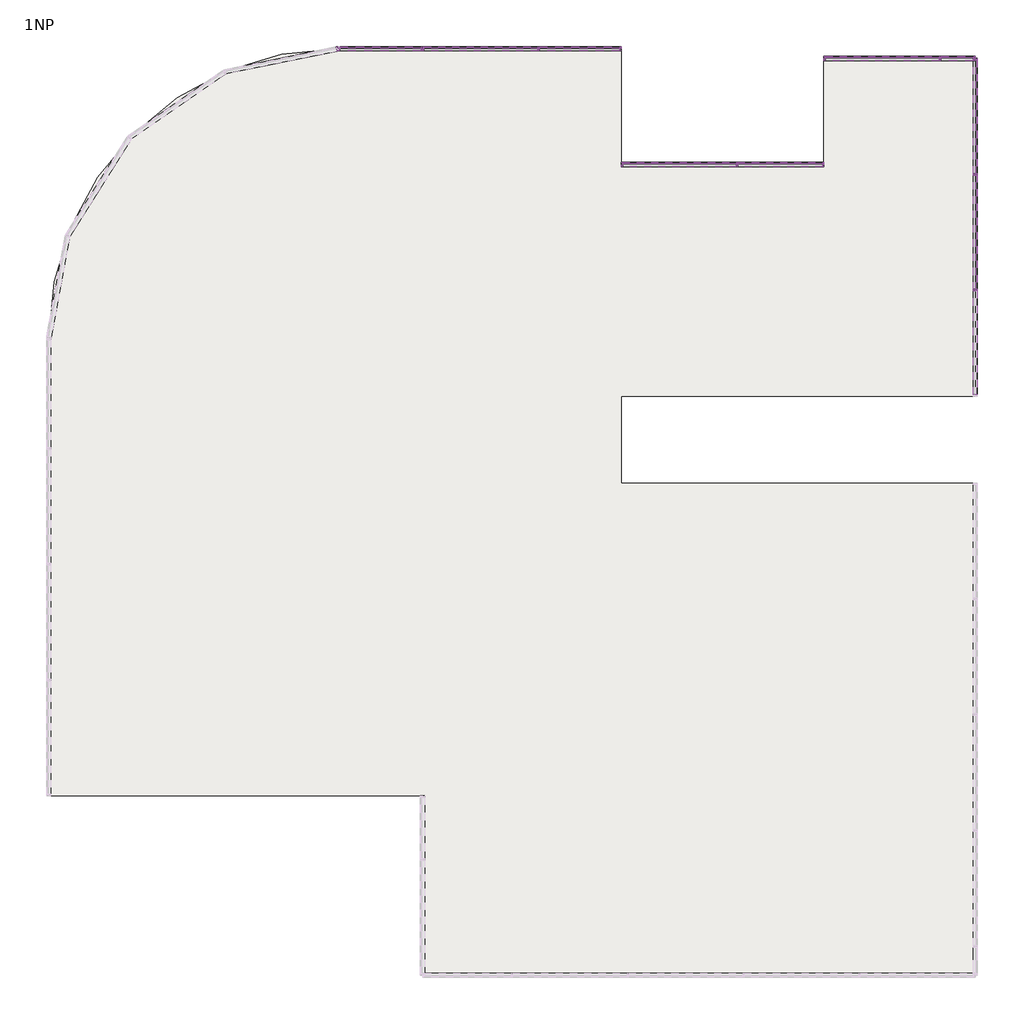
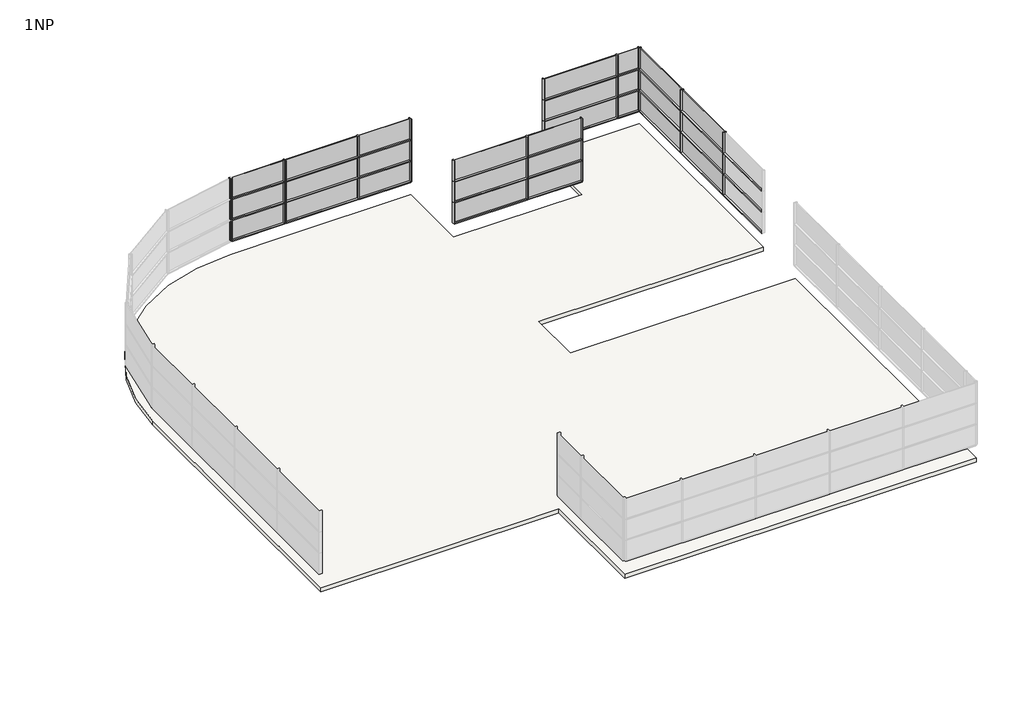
# One storey, part 3 of 3: 72 members, 27 plates, 1 slab.
"""IFC4 building model written with IfcOpenShell, lengths in millimetres."""

from ifc_helpers import new_model, si_unit, point, frame, frame_2d, origin, place, context, project, spatial, polyline, circle_curve, trimmed, segment, composite_curve, outline, extrude, transform, mapped, element, save
from components import rectangular_mullion_50_x_150mm_d99dc9be, rectangular_mullion_50_x_150mm_6588f46c, rectangular_mullion_50_x_150mm_3fe1b35e, rectangular_mullion_50_x_150mm_a037c29c, rectangular_mullion_50_x_150mm_c2546fd4, rectangular_mullion_50_x_150mm_8b4cb4b7, rectangular_mullion_50_x_150mm_185cfd49, rectangular_mullion_50_x_150mm_2fe63767, rectangular_mullion_50_x_150mm_6d604593, system_panel_glazed_8e9402eb, system_panel_glazed_89ac83a7, system_panel_glazed_e890f31e, system_panel_glazed_e3e91f99, system_panel_glazed_39d17f19, system_panel_glazed_18d93cd4

model = new_model("IFC4")

# Units and contexts
model_context = context("Model", 3, world=origin())
ifc_project = project(units=[si_unit("LENGTHUNIT", "METRE", prefix="MILLI")], contexts=[model_context])

# Site, building, storey
site = spatial("IfcSite", under=ifc_project)
building = spatial("IfcBuilding", under=site)
storey = spatial("IfcBuildingStorey", under=building, Name="1NP", Elevation=4000.0)

# Members
placement = place(None, origin())
rectangular_mullion_50_x_150mm_shape = rectangular_mullion_50_x_150mm_d99dc9be(model_context)
element("IfcMember", 1, ObjectType="Rectangular Mullion : 50 x 150mm", at=placement, inside=storey, context=model_context, shape_type="MappedRepresentation", body=[
    mapped(rectangular_mullion_50_x_150mm_shape, transform((13503.2660975, 39.3555415, 8400.0), x_axis=(0.0, -1.0, 0.0), y_axis=(1.0, 0.0, 0.0), z_axis=(0.0, 0.0, 1.0))),
])
element("IfcMember", 2, ObjectType="Rectangular Mullion : 50 x 150mm", at=placement, inside=storey, context=model_context, shape_type="MappedRepresentation", body=[
    mapped(rectangular_mullion_50_x_150mm_shape, transform((13503.2660975, 39.3555415, 7200.0), x_axis=(0.0, -1.0, 0.0), y_axis=(1.0, 0.0, 0.0), z_axis=(0.0, 0.0, 1.0))),
])
element("IfcMember", 3, ObjectType="Rectangular Mullion : 50 x 150mm", at=placement, inside=storey, context=model_context, shape_type="MappedRepresentation", body=[
    mapped(rectangular_mullion_50_x_150mm_shape, transform((13503.2660975, 39.3555415, 6000.0), x_axis=(0.0, -1.0, 0.0), y_axis=(1.0, 0.0, 0.0), z_axis=(0.0, 0.0, 1.0))),
])
element("IfcMember", 4, ObjectType="Rectangular Mullion : 50 x 150mm", at=placement, inside=storey, context=model_context, shape_type="MappedRepresentation", body=[
    mapped(rectangular_mullion_50_x_150mm_shape, transform((13503.2660975, 4039.3555415, 8400.0), x_axis=(0.0, -1.0, 0.0), y_axis=(1.0, 0.0, 0.0), z_axis=(0.0, 0.0, 1.0))),
])
element("IfcMember", 5, ObjectType="Rectangular Mullion : 50 x 150mm", at=placement, inside=storey, context=model_context, shape_type="MappedRepresentation", body=[
    mapped(rectangular_mullion_50_x_150mm_shape, transform((13503.2660975, 4039.3555415, 7200.0), x_axis=(0.0, -1.0, 0.0), y_axis=(1.0, 0.0, 0.0), z_axis=(0.0, 0.0, 1.0))),
])
element("IfcMember", 6, ObjectType="Rectangular Mullion : 50 x 150mm", at=placement, inside=storey, context=model_context, shape_type="MappedRepresentation", body=[
    mapped(rectangular_mullion_50_x_150mm_shape, transform((13503.2660975, 4039.3555415, 6000.0), x_axis=(0.0, -1.0, 0.0), y_axis=(1.0, 0.0, 0.0), z_axis=(0.0, 0.0, 1.0))),
])
element("IfcMember", 7, ObjectType="Rectangular Mullion : 50 x 150mm", at=placement, inside=storey, context=model_context, shape_type="MappedRepresentation", body=[
    mapped(rectangular_mullion_50_x_150mm_shape, transform((-1587.173406, 8375.9839566, 6000.0), x_axis=(1.0, 0.0, 0.0), y_axis=(0.0, 1.0, 0.0), z_axis=(0.0, 0.0, 1.0))),
])
element("IfcMember", 8, ObjectType="Rectangular Mullion : 50 x 150mm", at=placement, inside=storey, context=model_context, shape_type="MappedRepresentation", body=[
    mapped(rectangular_mullion_50_x_150mm_shape, transform((-1587.173406, 8375.9839566, 7200.0), x_axis=(1.0, 0.0, 0.0), y_axis=(0.0, 1.0, 0.0), z_axis=(0.0, 0.0, 1.0))),
])
element("IfcMember", 9, ObjectType="Rectangular Mullion : 50 x 150mm", at=placement, inside=storey, context=model_context, shape_type="MappedRepresentation", body=[
    mapped(rectangular_mullion_50_x_150mm_shape, transform((-1587.173406, 8375.9839566, 8400.0), x_axis=(1.0, 0.0, 0.0), y_axis=(0.0, 1.0, 0.0), z_axis=(0.0, 0.0, 1.0))),
])
element("IfcMember", 10, ObjectType="Rectangular Mullion : 50 x 150mm", at=placement, inside=storey, context=model_context, shape_type="MappedRepresentation", body=[
    mapped(rectangular_mullion_50_x_150mm_shape, transform((5278.419219, 4375.9839566, 6000.0), x_axis=(1.0, 0.0, 0.0), y_axis=(0.0, 1.0, 0.0), z_axis=(0.0, 0.0, 1.0))),
])
element("IfcMember", 11, ObjectType="Rectangular Mullion : 50 x 150mm", at=placement, inside=storey, context=model_context, shape_type="MappedRepresentation", body=[
    mapped(rectangular_mullion_50_x_150mm_shape, transform((5278.419219, 4375.9839566, 7200.0), x_axis=(1.0, 0.0, 0.0), y_axis=(0.0, 1.0, 0.0), z_axis=(0.0, 0.0, 1.0))),
])
element("IfcMember", 12, ObjectType="Rectangular Mullion : 50 x 150mm", at=placement, inside=storey, context=model_context, shape_type="MappedRepresentation", body=[
    mapped(rectangular_mullion_50_x_150mm_shape, transform((5278.419219, 4375.9839566, 8400.0), x_axis=(1.0, 0.0, 0.0), y_axis=(0.0, 1.0, 0.0), z_axis=(0.0, 0.0, 1.0))),
])
element("IfcMember", 13, ObjectType="Rectangular Mullion : 50 x 150mm", at=placement, inside=storey, context=model_context, shape_type="MappedRepresentation", body=[
    mapped(rectangular_mullion_50_x_150mm_shape, transform((12278.419219, 8039.3555415, 6000.0), x_axis=(1.0, 0.0, 0.0), y_axis=(0.0, 1.0, 0.0), z_axis=(0.0, 0.0, 1.0))),
])
element("IfcMember", 14, ObjectType="Rectangular Mullion : 50 x 150mm", at=placement, inside=storey, context=model_context, shape_type="MappedRepresentation", body=[
    mapped(rectangular_mullion_50_x_150mm_shape, transform((12278.419219, 8039.3555415, 7200.0), x_axis=(1.0, 0.0, 0.0), y_axis=(0.0, 1.0, 0.0), z_axis=(0.0, 0.0, 1.0))),
])
element("IfcMember", 15, ObjectType="Rectangular Mullion : 50 x 150mm", at=placement, inside=storey, context=model_context, shape_type="MappedRepresentation", body=[
    mapped(rectangular_mullion_50_x_150mm_shape, transform((12278.419219, 8039.3555415, 8400.0), x_axis=(1.0, 0.0, 0.0), y_axis=(0.0, 1.0, 0.0), z_axis=(0.0, 0.0, 1.0))),
])
rectangular_mullion_50_x_150mm_2_shape = rectangular_mullion_50_x_150mm_6588f46c(model_context)
element("IfcMember", 16, ObjectType="Rectangular Mullion : 50 x 150mm", at=placement, inside=storey, context=model_context, shape_type="MappedRepresentation", body=[
    mapped(rectangular_mullion_50_x_150mm_2_shape, transform((1278.419219, 8375.9839566, 6000.0), x_axis=(1.0, 0.0, 0.0), y_axis=(0.0, 1.0, 0.0), z_axis=(0.0, 0.0, 1.0))),
])
element("IfcMember", 17, ObjectType="Rectangular Mullion : 50 x 150mm", at=placement, inside=storey, context=model_context, shape_type="MappedRepresentation", body=[
    mapped(rectangular_mullion_50_x_150mm_2_shape, transform((1278.419219, 8375.9839566, 7200.0), x_axis=(1.0, 0.0, 0.0), y_axis=(0.0, 1.0, 0.0), z_axis=(0.0, 0.0, 1.0))),
])
element("IfcMember", 18, ObjectType="Rectangular Mullion : 50 x 150mm", at=placement, inside=storey, context=model_context, shape_type="MappedRepresentation", body=[
    mapped(rectangular_mullion_50_x_150mm_2_shape, transform((1278.419219, 8375.9839566, 8400.0), x_axis=(1.0, 0.0, 0.0), y_axis=(0.0, 1.0, 0.0), z_axis=(0.0, 0.0, 1.0))),
])
element("IfcMember", 19, ObjectType="Rectangular Mullion : 50 x 150mm", at=placement, inside=storey, context=model_context, shape_type="MappedRepresentation", body=[
    mapped(rectangular_mullion_50_x_150mm_2_shape, transform((8278.419219, 4375.9839566, 6000.0), x_axis=(1.0, 0.0, 0.0), y_axis=(0.0, 1.0, 0.0), z_axis=(0.0, 0.0, 1.0))),
])
element("IfcMember", 20, ObjectType="Rectangular Mullion : 50 x 150mm", at=placement, inside=storey, context=model_context, shape_type="MappedRepresentation", body=[
    mapped(rectangular_mullion_50_x_150mm_2_shape, transform((8278.419219, 4375.9839566, 7200.0), x_axis=(1.0, 0.0, 0.0), y_axis=(0.0, 1.0, 0.0), z_axis=(0.0, 0.0, 1.0))),
])
element("IfcMember", 21, ObjectType="Rectangular Mullion : 50 x 150mm", at=placement, inside=storey, context=model_context, shape_type="MappedRepresentation", body=[
    mapped(rectangular_mullion_50_x_150mm_2_shape, transform((8278.419219, 4375.9839566, 8400.0), x_axis=(1.0, 0.0, 0.0), y_axis=(0.0, 1.0, 0.0), z_axis=(0.0, 0.0, 1.0))),
])
element("IfcMember", 22, ObjectType="Rectangular Mullion : 50 x 150mm", at=placement, inside=storey, context=model_context, shape_type="MappedRepresentation", body=[
    mapped(rectangular_mullion_50_x_150mm_2_shape, transform((13503.2660975, 8039.3555415, 6000.0), x_axis=(1.0, 0.0, 0.0), y_axis=(0.0, 1.0, 0.0), z_axis=(0.0, 0.0, 1.0))),
])
element("IfcMember", 23, ObjectType="Rectangular Mullion : 50 x 150mm", at=placement, inside=storey, context=model_context, shape_type="MappedRepresentation", body=[
    mapped(rectangular_mullion_50_x_150mm_2_shape, transform((13503.2660975, 8039.3555415, 7200.0), x_axis=(1.0, 0.0, 0.0), y_axis=(0.0, 1.0, 0.0), z_axis=(0.0, 0.0, 1.0))),
])
element("IfcMember", 24, ObjectType="Rectangular Mullion : 50 x 150mm", at=placement, inside=storey, context=model_context, shape_type="MappedRepresentation", body=[
    mapped(rectangular_mullion_50_x_150mm_2_shape, transform((13503.2660975, 8039.3555415, 8400.0), x_axis=(1.0, 0.0, 0.0), y_axis=(0.0, 1.0, 0.0), z_axis=(0.0, 0.0, 1.0))),
])
element("IfcMember", 25, ObjectType="Rectangular Mullion : 50 x 150mm", at=placement, inside=storey, context=model_context, shape_type="MappedRepresentation", body=[
    mapped(rectangular_mullion_50_x_150mm_2_shape, transform((-5587.173406, 8375.9839566, 6000.0), x_axis=(1.0, 0.0, 0.0), y_axis=(0.0, 1.0, 0.0), z_axis=(0.0, 0.0, 1.0))),
])
element("IfcMember", 26, ObjectType="Rectangular Mullion : 50 x 150mm", at=placement, inside=storey, context=model_context, shape_type="MappedRepresentation", body=[
    mapped(rectangular_mullion_50_x_150mm_2_shape, transform((-5587.173406, 8375.9839566, 7200.0), x_axis=(1.0, 0.0, 0.0), y_axis=(0.0, 1.0, 0.0), z_axis=(0.0, 0.0, 1.0))),
])
element("IfcMember", 27, ObjectType="Rectangular Mullion : 50 x 150mm", at=placement, inside=storey, context=model_context, shape_type="MappedRepresentation", body=[
    mapped(rectangular_mullion_50_x_150mm_2_shape, transform((-5587.173406, 8375.9839566, 8400.0), x_axis=(1.0, 0.0, 0.0), y_axis=(0.0, 1.0, 0.0), z_axis=(0.0, 0.0, 1.0))),
])
element("IfcMember", 28, ObjectType="Rectangular Mullion : 50 x 150mm", at=placement, inside=storey, context=model_context, shape_type="MappedRepresentation", body=[
    mapped(rectangular_mullion_50_x_150mm_2_shape, transform((-8496.7339025, 8375.9839566, 6000.0), x_axis=(0.9797958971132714, 0.1999999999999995, 0.0), y_axis=(-0.1999999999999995, 0.9797958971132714, 0.0), z_axis=(0.0, 0.0, 1.0))),
])
element("IfcMember", 29, ObjectType="Rectangular Mullion : 50 x 150mm", at=placement, inside=storey, context=model_context, shape_type="MappedRepresentation", body=[
    mapped(rectangular_mullion_50_x_150mm_2_shape, transform((-8496.7339025, 8375.9839566, 7200.0), x_axis=(0.9797958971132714, 0.1999999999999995, 0.0), y_axis=(-0.1999999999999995, 0.9797958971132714, 0.0), z_axis=(0.0, 0.0, 1.0))),
])
element("IfcMember", 30, ObjectType="Rectangular Mullion : 50 x 150mm", at=placement, inside=storey, context=model_context, shape_type="MappedRepresentation", body=[
    mapped(rectangular_mullion_50_x_150mm_2_shape, transform((-8496.7339025, 8375.9839566, 8400.0), x_axis=(0.9797958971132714, 0.1999999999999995, 0.0), y_axis=(-0.1999999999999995, 0.9797958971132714, 0.0), z_axis=(0.0, 0.0, 1.0))),
])
rectangular_mullion_50_x_150mm_3_shape = rectangular_mullion_50_x_150mm_3fe1b35e(model_context)
element("IfcMember", 31, ObjectType="Rectangular Mullion : 50 x 150mm", at=placement, inside=storey, context=model_context, shape_type="MappedRepresentation", body=[
    mapped(rectangular_mullion_50_x_150mm_3_shape, transform((13503.2660975, 14.3555415, 6000.0), x_axis=(0.0, 0.0, 1.0), y_axis=(1.0, 0.0, 0.0), z_axis=(0.0, 1.0, 0.0))),
])
element("IfcMember", 32, ObjectType="Rectangular Mullion : 50 x 150mm", at=placement, inside=storey, context=model_context, shape_type="MappedRepresentation", body=[
    mapped(rectangular_mullion_50_x_150mm_3_shape, transform((13503.2660975, 14.3555415, 4800.0), x_axis=(0.0, 0.0, 1.0), y_axis=(1.0, 0.0, 0.0), z_axis=(0.0, 1.0, 0.0))),
])
element("IfcMember", 33, ObjectType="Rectangular Mullion : 50 x 150mm", at=placement, inside=storey, context=model_context, shape_type="MappedRepresentation", body=[
    mapped(rectangular_mullion_50_x_150mm_3_shape, transform((13503.2660975, 14.3555415, 7200.0), x_axis=(0.0, 0.0, 1.0), y_axis=(1.0, 0.0, 0.0), z_axis=(0.0, 1.0, 0.0))),
])
rectangular_mullion_50_x_150mm_4_shape = rectangular_mullion_50_x_150mm_a037c29c(model_context)
element("IfcMember", 34, ObjectType="Rectangular Mullion : 50 x 150mm", at=placement, inside=storey, context=model_context, shape_type="MappedRepresentation", body=[
    mapped(rectangular_mullion_50_x_150mm_4_shape, transform((13503.2660975, 4014.3555415, 6000.0), x_axis=(0.0, 0.0, 1.0), y_axis=(1.0, 0.0, 0.0), z_axis=(0.0, 1.0, 0.0))),
])
element("IfcMember", 35, ObjectType="Rectangular Mullion : 50 x 150mm", at=placement, inside=storey, context=model_context, shape_type="MappedRepresentation", body=[
    mapped(rectangular_mullion_50_x_150mm_4_shape, transform((13503.2660975, 4014.3555415, 4800.0), x_axis=(0.0, 0.0, 1.0), y_axis=(1.0, 0.0, 0.0), z_axis=(0.0, 1.0, 0.0))),
])
element("IfcMember", 36, ObjectType="Rectangular Mullion : 50 x 150mm", at=placement, inside=storey, context=model_context, shape_type="MappedRepresentation", body=[
    mapped(rectangular_mullion_50_x_150mm_4_shape, transform((13503.2660975, 4014.3555415, 7200.0), x_axis=(0.0, 0.0, 1.0), y_axis=(1.0, 0.0, 0.0), z_axis=(0.0, 1.0, 0.0))),
])
rectangular_mullion_50_x_150mm_5_shape = rectangular_mullion_50_x_150mm_c2546fd4(model_context)
element("IfcMember", 37, ObjectType="Rectangular Mullion : 50 x 150mm", at=placement, inside=storey, context=model_context, shape_type="MappedRepresentation", body=[
    mapped(rectangular_mullion_50_x_150mm_5_shape, transform((13503.2660975, 7989.3555415, 6000.0), x_axis=(0.0, 0.0, 1.0), y_axis=(1.0, 0.0, 0.0), z_axis=(0.0, 1.0, 0.0))),
])
element("IfcMember", 38, ObjectType="Rectangular Mullion : 50 x 150mm", at=placement, inside=storey, context=model_context, shape_type="MappedRepresentation", body=[
    mapped(rectangular_mullion_50_x_150mm_5_shape, transform((13503.2660975, 7989.3555415, 4800.0), x_axis=(0.0, 0.0, 1.0), y_axis=(1.0, 0.0, 0.0), z_axis=(0.0, 1.0, 0.0))),
])
element("IfcMember", 39, ObjectType="Rectangular Mullion : 50 x 150mm", at=placement, inside=storey, context=model_context, shape_type="MappedRepresentation", body=[
    mapped(rectangular_mullion_50_x_150mm_5_shape, transform((13503.2660975, 7989.3555415, 7200.0), x_axis=(0.0, 0.0, 1.0), y_axis=(1.0, 0.0, 0.0), z_axis=(0.0, 1.0, 0.0))),
])
element("IfcMember", 40, ObjectType="Rectangular Mullion : 50 x 150mm", at=placement, inside=storey, context=model_context, shape_type="MappedRepresentation", body=[
    mapped(rectangular_mullion_50_x_150mm_5_shape, transform((-5537.173406, 8375.9839566, 6000.0), x_axis=(0.0, 0.0, 1.0), y_axis=(0.0, 1.0, 0.0), z_axis=(-1.0, 0.0, 0.0))),
])
element("IfcMember", 41, ObjectType="Rectangular Mullion : 50 x 150mm", at=placement, inside=storey, context=model_context, shape_type="MappedRepresentation", body=[
    mapped(rectangular_mullion_50_x_150mm_5_shape, transform((-5537.173406, 8375.9839566, 7200.0), x_axis=(0.0, 0.0, 1.0), y_axis=(0.0, 1.0, 0.0), z_axis=(-1.0, 0.0, 0.0))),
])
element("IfcMember", 42, ObjectType="Rectangular Mullion : 50 x 150mm", at=placement, inside=storey, context=model_context, shape_type="MappedRepresentation", body=[
    mapped(rectangular_mullion_50_x_150mm_5_shape, transform((-5537.173406, 8375.9839566, 4800.0), x_axis=(0.0, 0.0, 1.0), y_axis=(0.0, 1.0, 0.0), z_axis=(-1.0, 0.0, 0.0))),
])
element("IfcMember", 43, ObjectType="Rectangular Mullion : 50 x 150mm", at=placement, inside=storey, context=model_context, shape_type="MappedRepresentation", body=[
    mapped(rectangular_mullion_50_x_150mm_5_shape, transform((1328.419219, 4375.9839566, 4800.0), x_axis=(0.0, 0.0, 1.0), y_axis=(0.0, 1.0, 0.0), z_axis=(-1.0, 0.0, 0.0))),
])
element("IfcMember", 44, ObjectType="Rectangular Mullion : 50 x 150mm", at=placement, inside=storey, context=model_context, shape_type="MappedRepresentation", body=[
    mapped(rectangular_mullion_50_x_150mm_5_shape, transform((1328.419219, 4375.9839566, 6000.0), x_axis=(0.0, 0.0, 1.0), y_axis=(0.0, 1.0, 0.0), z_axis=(-1.0, 0.0, 0.0))),
])
element("IfcMember", 45, ObjectType="Rectangular Mullion : 50 x 150mm", at=placement, inside=storey, context=model_context, shape_type="MappedRepresentation", body=[
    mapped(rectangular_mullion_50_x_150mm_5_shape, transform((1328.419219, 4375.9839566, 7200.0), x_axis=(0.0, 0.0, 1.0), y_axis=(0.0, 1.0, 0.0), z_axis=(-1.0, 0.0, 0.0))),
])
element("IfcMember", 46, ObjectType="Rectangular Mullion : 50 x 150mm", at=placement, inside=storey, context=model_context, shape_type="MappedRepresentation", body=[
    mapped(rectangular_mullion_50_x_150mm_5_shape, transform((8328.419219, 8039.3555415, 4800.0), x_axis=(0.0, 0.0, 1.0), y_axis=(0.0, 1.0, 0.0), z_axis=(-1.0, 0.0, 0.0))),
])
element("IfcMember", 47, ObjectType="Rectangular Mullion : 50 x 150mm", at=placement, inside=storey, context=model_context, shape_type="MappedRepresentation", body=[
    mapped(rectangular_mullion_50_x_150mm_5_shape, transform((8328.419219, 8039.3555415, 6000.0), x_axis=(0.0, 0.0, 1.0), y_axis=(0.0, 1.0, 0.0), z_axis=(-1.0, 0.0, 0.0))),
])
element("IfcMember", 48, ObjectType="Rectangular Mullion : 50 x 150mm", at=placement, inside=storey, context=model_context, shape_type="MappedRepresentation", body=[
    mapped(rectangular_mullion_50_x_150mm_5_shape, transform((8328.419219, 8039.3555415, 7200.0), x_axis=(0.0, 0.0, 1.0), y_axis=(0.0, 1.0, 0.0), z_axis=(-1.0, 0.0, 0.0))),
])
element("IfcMember", 49, ObjectType="Rectangular Mullion : 50 x 150mm", at=placement, inside=storey, context=model_context, shape_type="MappedRepresentation", body=[
    mapped(rectangular_mullion_50_x_150mm_2_shape, transform((13503.2660975, 8039.3555415, 7200.0), x_axis=(0.0, 1.0, 0.0), y_axis=(1.0, 0.0, 0.0), z_axis=(0.0, 0.0, -1.0))),
])
element("IfcMember", 50, ObjectType="Rectangular Mullion : 50 x 150mm", at=placement, inside=storey, context=model_context, shape_type="MappedRepresentation", body=[
    mapped(rectangular_mullion_50_x_150mm_2_shape, transform((13503.2660975, 8039.3555415, 6000.0), x_axis=(0.0, 1.0, 0.0), y_axis=(1.0, 0.0, 0.0), z_axis=(0.0, 0.0, -1.0))),
])
element("IfcMember", 51, ObjectType="Rectangular Mullion : 50 x 150mm", at=placement, inside=storey, context=model_context, shape_type="MappedRepresentation", body=[
    mapped(rectangular_mullion_50_x_150mm_2_shape, transform((13503.2660975, 8039.3555415, 4800.0), x_axis=(0.0, 1.0, 0.0), y_axis=(1.0, 0.0, 0.0), z_axis=(0.0, 0.0, -1.0))),
])
element("IfcMember", 52, ObjectType="Rectangular Mullion : 50 x 150mm", at=placement, inside=storey, context=model_context, shape_type="MappedRepresentation", body=[
    mapped(rectangular_mullion_50_x_150mm_2_shape, transform((-5587.173406, 8375.9839566, 4800.0), x_axis=(-1.0, 0.0, 0.0), y_axis=(0.0, 1.0, 0.0), z_axis=(0.0, 0.0, -1.0))),
])
element("IfcMember", 53, ObjectType="Rectangular Mullion : 50 x 150mm", at=placement, inside=storey, context=model_context, shape_type="MappedRepresentation", body=[
    mapped(rectangular_mullion_50_x_150mm_2_shape, transform((-5587.173406, 8375.9839566, 6000.0), x_axis=(-1.0, 0.0, 0.0), y_axis=(0.0, 1.0, 0.0), z_axis=(0.0, 0.0, -1.0))),
])
element("IfcMember", 54, ObjectType="Rectangular Mullion : 50 x 150mm", at=placement, inside=storey, context=model_context, shape_type="MappedRepresentation", body=[
    mapped(rectangular_mullion_50_x_150mm_2_shape, transform((-5587.173406, 8375.9839566, 7200.0), x_axis=(-1.0, 0.0, 0.0), y_axis=(0.0, 1.0, 0.0), z_axis=(0.0, 0.0, -1.0))),
])
element("IfcMember", 55, ObjectType="Rectangular Mullion : 50 x 150mm", at=placement, inside=storey, context=model_context, shape_type="MappedRepresentation", body=[
    mapped(rectangular_mullion_50_x_150mm_2_shape, transform((1278.419219, 4375.9839566, 4800.0), x_axis=(-1.0, 0.0, 0.0), y_axis=(0.0, 1.0, 0.0), z_axis=(0.0, 0.0, -1.0))),
])
element("IfcMember", 56, ObjectType="Rectangular Mullion : 50 x 150mm", at=placement, inside=storey, context=model_context, shape_type="MappedRepresentation", body=[
    mapped(rectangular_mullion_50_x_150mm_2_shape, transform((1278.419219, 4375.9839566, 6000.0), x_axis=(-1.0, 0.0, 0.0), y_axis=(0.0, 1.0, 0.0), z_axis=(0.0, 0.0, -1.0))),
])
element("IfcMember", 57, ObjectType="Rectangular Mullion : 50 x 150mm", at=placement, inside=storey, context=model_context, shape_type="MappedRepresentation", body=[
    mapped(rectangular_mullion_50_x_150mm_2_shape, transform((1278.419219, 4375.9839566, 7200.0), x_axis=(-1.0, 0.0, 0.0), y_axis=(0.0, 1.0, 0.0), z_axis=(0.0, 0.0, -1.0))),
])
element("IfcMember", 58, ObjectType="Rectangular Mullion : 50 x 150mm", at=placement, inside=storey, context=model_context, shape_type="MappedRepresentation", body=[
    mapped(rectangular_mullion_50_x_150mm_2_shape, transform((8278.419219, 8039.3555415, 4800.0), x_axis=(-1.0, 0.0, 0.0), y_axis=(0.0, 1.0, 0.0), z_axis=(0.0, 0.0, -1.0))),
])
element("IfcMember", 59, ObjectType="Rectangular Mullion : 50 x 150mm", at=placement, inside=storey, context=model_context, shape_type="MappedRepresentation", body=[
    mapped(rectangular_mullion_50_x_150mm_2_shape, transform((8278.419219, 8039.3555415, 6000.0), x_axis=(-1.0, 0.0, 0.0), y_axis=(0.0, 1.0, 0.0), z_axis=(0.0, 0.0, -1.0))),
])
element("IfcMember", 60, ObjectType="Rectangular Mullion : 50 x 150mm", at=placement, inside=storey, context=model_context, shape_type="MappedRepresentation", body=[
    mapped(rectangular_mullion_50_x_150mm_2_shape, transform((8278.419219, 8039.3555415, 7200.0), x_axis=(-1.0, 0.0, 0.0), y_axis=(0.0, 1.0, 0.0), z_axis=(0.0, 0.0, -1.0))),
])
rectangular_mullion_50_x_150mm_6_shape = rectangular_mullion_50_x_150mm_8b4cb4b7(model_context)
element("IfcMember", 61, ObjectType="Rectangular Mullion : 50 x 150mm", at=placement, inside=storey, context=model_context, shape_type="MappedRepresentation", body=[
    mapped(rectangular_mullion_50_x_150mm_6_shape, transform((-1562.173406, 8375.9839566, 4800.0), x_axis=(0.0, 0.0, 1.0), y_axis=(0.0, 1.0, 0.0), z_axis=(-1.0, 0.0, 0.0))),
])
element("IfcMember", 62, ObjectType="Rectangular Mullion : 50 x 150mm", at=placement, inside=storey, context=model_context, shape_type="MappedRepresentation", body=[
    mapped(rectangular_mullion_50_x_150mm_6_shape, transform((-1562.173406, 8375.9839566, 6000.0), x_axis=(0.0, 0.0, 1.0), y_axis=(0.0, 1.0, 0.0), z_axis=(-1.0, 0.0, 0.0))),
])
element("IfcMember", 63, ObjectType="Rectangular Mullion : 50 x 150mm", at=placement, inside=storey, context=model_context, shape_type="MappedRepresentation", body=[
    mapped(rectangular_mullion_50_x_150mm_6_shape, transform((-1562.173406, 8375.9839566, 7200.0), x_axis=(0.0, 0.0, 1.0), y_axis=(0.0, 1.0, 0.0), z_axis=(-1.0, 0.0, 0.0))),
])
rectangular_mullion_50_x_150mm_7_shape = rectangular_mullion_50_x_150mm_185cfd49(model_context)
element("IfcMember", 64, ObjectType="Rectangular Mullion : 50 x 150mm", at=placement, inside=storey, context=model_context, shape_type="MappedRepresentation", body=[
    mapped(rectangular_mullion_50_x_150mm_7_shape, transform((5303.419219, 4375.9839566, 4800.0), x_axis=(0.0, 0.0, 1.0), y_axis=(0.0, 1.0, 0.0), z_axis=(-1.0, 0.0, 0.0))),
])
element("IfcMember", 65, ObjectType="Rectangular Mullion : 50 x 150mm", at=placement, inside=storey, context=model_context, shape_type="MappedRepresentation", body=[
    mapped(rectangular_mullion_50_x_150mm_7_shape, transform((5303.419219, 4375.9839566, 6000.0), x_axis=(0.0, 0.0, 1.0), y_axis=(0.0, 1.0, 0.0), z_axis=(-1.0, 0.0, 0.0))),
])
element("IfcMember", 66, ObjectType="Rectangular Mullion : 50 x 150mm", at=placement, inside=storey, context=model_context, shape_type="MappedRepresentation", body=[
    mapped(rectangular_mullion_50_x_150mm_7_shape, transform((5303.419219, 4375.9839566, 7200.0), x_axis=(0.0, 0.0, 1.0), y_axis=(0.0, 1.0, 0.0), z_axis=(-1.0, 0.0, 0.0))),
])
rectangular_mullion_50_x_150mm_8_shape = rectangular_mullion_50_x_150mm_2fe63767(model_context)
element("IfcMember", 67, ObjectType="Rectangular Mullion : 50 x 150mm", at=placement, inside=storey, context=model_context, shape_type="MappedRepresentation", body=[
    mapped(rectangular_mullion_50_x_150mm_8_shape, transform((12303.419219, 8039.3555415, 4800.0), x_axis=(0.0, 0.0, 1.0), y_axis=(0.0, 1.0, 0.0), z_axis=(-1.0, 0.0, 0.0))),
])
element("IfcMember", 68, ObjectType="Rectangular Mullion : 50 x 150mm", at=placement, inside=storey, context=model_context, shape_type="MappedRepresentation", body=[
    mapped(rectangular_mullion_50_x_150mm_8_shape, transform((12303.419219, 8039.3555415, 6000.0), x_axis=(0.0, 0.0, 1.0), y_axis=(0.0, 1.0, 0.0), z_axis=(-1.0, 0.0, 0.0))),
])
element("IfcMember", 69, ObjectType="Rectangular Mullion : 50 x 150mm", at=placement, inside=storey, context=model_context, shape_type="MappedRepresentation", body=[
    mapped(rectangular_mullion_50_x_150mm_8_shape, transform((12303.419219, 8039.3555415, 7200.0), x_axis=(0.0, 0.0, 1.0), y_axis=(0.0, 1.0, 0.0), z_axis=(-1.0, 0.0, 0.0))),
])
rectangular_mullion_50_x_150mm_9_shape = rectangular_mullion_50_x_150mm_6d604593(model_context)
element("IfcMember", 70, ObjectType="Rectangular Mullion : 50 x 150mm", at=placement, inside=storey, context=model_context, shape_type="MappedRepresentation", body=[
    mapped(rectangular_mullion_50_x_150mm_9_shape, transform((-8446.7339025, 8375.9839566, 4800.0), x_axis=(0.0, 0.0, 1.0), y_axis=(0.0, 1.0, 0.0), z_axis=(-1.0, 0.0, 0.0))),
])
element("IfcMember", 71, ObjectType="Rectangular Mullion : 50 x 150mm", at=placement, inside=storey, context=model_context, shape_type="MappedRepresentation", body=[
    mapped(rectangular_mullion_50_x_150mm_9_shape, transform((-8446.7339025, 8375.9839566, 6000.0), x_axis=(0.0, 0.0, 1.0), y_axis=(0.0, 1.0, 0.0), z_axis=(-1.0, 0.0, 0.0))),
])
element("IfcMember", 72, ObjectType="Rectangular Mullion : 50 x 150mm", at=placement, inside=storey, context=model_context, shape_type="MappedRepresentation", body=[
    mapped(rectangular_mullion_50_x_150mm_9_shape, transform((-8446.7339025, 8375.9839566, 7200.0), x_axis=(0.0, 0.0, 1.0), y_axis=(0.0, 1.0, 0.0), z_axis=(-1.0, 0.0, 0.0))),
])

# Plates
system_panel_glazed_shape = system_panel_glazed_8e9402eb(model_context)
element("IfcPlate", 73, ObjectType="System Panel : Glazed", at=placement, inside=storey, context=model_context, shape_type="MappedRepresentation", body=[
    mapped(system_panel_glazed_shape, transform((13503.2660975, 6026.8555415, 4825.0), x_axis=(0.0, -1.0, 0.0), y_axis=(1.0, 0.0, 0.0), z_axis=(0.0, 0.0, 1.0))),
])
element("IfcPlate", 74, ObjectType="System Panel : Glazed", at=placement, inside=storey, context=model_context, shape_type="MappedRepresentation", body=[
    mapped(system_panel_glazed_shape, transform((13503.2660975, 6026.8555415, 6025.0), x_axis=(0.0, -1.0, 0.0), y_axis=(1.0, 0.0, 0.0), z_axis=(0.0, 0.0, 1.0))),
])
element("IfcPlate", 75, ObjectType="System Panel : Glazed", at=placement, inside=storey, context=model_context, shape_type="MappedRepresentation", body=[
    mapped(system_panel_glazed_shape, transform((13503.2660975, 6026.8555415, 7225.0), x_axis=(0.0, -1.0, 0.0), y_axis=(1.0, 0.0, 0.0), z_axis=(0.0, 0.0, 1.0))),
])
element("IfcPlate", 76, ObjectType="System Panel : Glazed", at=placement, inside=storey, context=model_context, shape_type="MappedRepresentation", body=[
    mapped(system_panel_glazed_shape, transform((10290.919219, 8039.3555415, 4825.0), x_axis=(1.0, 0.0, 0.0), y_axis=(0.0, 1.0, 0.0), z_axis=(0.0, 0.0, 1.0))),
])
element("IfcPlate", 77, ObjectType="System Panel : Glazed", at=placement, inside=storey, context=model_context, shape_type="MappedRepresentation", body=[
    mapped(system_panel_glazed_shape, transform((10290.919219, 8039.3555415, 6025.0), x_axis=(1.0, 0.0, 0.0), y_axis=(0.0, 1.0, 0.0), z_axis=(0.0, 0.0, 1.0))),
])
element("IfcPlate", 78, ObjectType="System Panel : Glazed", at=placement, inside=storey, context=model_context, shape_type="MappedRepresentation", body=[
    mapped(system_panel_glazed_shape, transform((10290.919219, 8039.3555415, 7225.0), x_axis=(1.0, 0.0, 0.0), y_axis=(0.0, 1.0, 0.0), z_axis=(0.0, 0.0, 1.0))),
])
element("IfcPlate", 79, ObjectType="System Panel : Glazed", at=placement, inside=storey, context=model_context, shape_type="MappedRepresentation", body=[
    mapped(system_panel_glazed_shape, transform((3290.919219, 4375.9839566, 4825.0), x_axis=(1.0, 0.0, 0.0), y_axis=(0.0, 1.0, 0.0), z_axis=(0.0, 0.0, 1.0))),
])
element("IfcPlate", 80, ObjectType="System Panel : Glazed", at=placement, inside=storey, context=model_context, shape_type="MappedRepresentation", body=[
    mapped(system_panel_glazed_shape, transform((3290.919219, 4375.9839566, 6025.0), x_axis=(1.0, 0.0, 0.0), y_axis=(0.0, 1.0, 0.0), z_axis=(0.0, 0.0, 1.0))),
])
element("IfcPlate", 81, ObjectType="System Panel : Glazed", at=placement, inside=storey, context=model_context, shape_type="MappedRepresentation", body=[
    mapped(system_panel_glazed_shape, transform((3290.919219, 4375.9839566, 7225.0), x_axis=(1.0, 0.0, 0.0), y_axis=(0.0, 1.0, 0.0), z_axis=(0.0, 0.0, 1.0))),
])
element("IfcPlate", 82, ObjectType="System Panel : Glazed", at=placement, inside=storey, context=model_context, shape_type="MappedRepresentation", body=[
    mapped(system_panel_glazed_shape, transform((-3574.673406, 8375.9839566, 4825.0), x_axis=(1.0, 0.0, 0.0), y_axis=(0.0, 1.0, 0.0), z_axis=(0.0, 0.0, 1.0))),
])
element("IfcPlate", 83, ObjectType="System Panel : Glazed", at=placement, inside=storey, context=model_context, shape_type="MappedRepresentation", body=[
    mapped(system_panel_glazed_shape, transform((-3574.673406, 8375.9839566, 6025.0), x_axis=(1.0, 0.0, 0.0), y_axis=(0.0, 1.0, 0.0), z_axis=(0.0, 0.0, 1.0))),
])
element("IfcPlate", 84, ObjectType="System Panel : Glazed", at=placement, inside=storey, context=model_context, shape_type="MappedRepresentation", body=[
    mapped(system_panel_glazed_shape, transform((-3574.673406, 8375.9839566, 7225.0), x_axis=(1.0, 0.0, 0.0), y_axis=(0.0, 1.0, 0.0), z_axis=(0.0, 0.0, 1.0))),
])
system_panel_glazed_2_shape = system_panel_glazed_89ac83a7(model_context)
element("IfcPlate", 85, ObjectType="System Panel : Glazed", at=placement, inside=storey, context=model_context, shape_type="MappedRepresentation", body=[
    mapped(system_panel_glazed_2_shape, transform((13503.2660975, 2039.3555415, 4825.0), x_axis=(0.0, -1.0, 0.0), y_axis=(1.0, 0.0, 0.0), z_axis=(0.0, 0.0, 1.0))),
])
element("IfcPlate", 86, ObjectType="System Panel : Glazed", at=placement, inside=storey, context=model_context, shape_type="MappedRepresentation", body=[
    mapped(system_panel_glazed_2_shape, transform((13503.2660975, 2039.3555415, 6025.0), x_axis=(0.0, -1.0, 0.0), y_axis=(1.0, 0.0, 0.0), z_axis=(0.0, 0.0, 1.0))),
])
element("IfcPlate", 87, ObjectType="System Panel : Glazed", at=placement, inside=storey, context=model_context, shape_type="MappedRepresentation", body=[
    mapped(system_panel_glazed_2_shape, transform((13503.2660975, 2039.3555415, 7225.0), x_axis=(0.0, -1.0, 0.0), y_axis=(1.0, 0.0, 0.0), z_axis=(0.0, 0.0, 1.0))),
])
system_panel_glazed_3_shape = system_panel_glazed_e890f31e(model_context)
element("IfcPlate", 88, ObjectType="System Panel : Glazed", at=placement, inside=storey, context=model_context, shape_type="MappedRepresentation", body=[
    mapped(system_panel_glazed_3_shape, transform((-166.8770935, 8375.9839566, 4825.0), x_axis=(1.0, 0.0, 0.0), y_axis=(0.0, 1.0, 0.0), z_axis=(0.0, 0.0, 1.0))),
])
element("IfcPlate", 89, ObjectType="System Panel : Glazed", at=placement, inside=storey, context=model_context, shape_type="MappedRepresentation", body=[
    mapped(system_panel_glazed_3_shape, transform((-166.8770935, 8375.9839566, 6025.0), x_axis=(1.0, 0.0, 0.0), y_axis=(0.0, 1.0, 0.0), z_axis=(0.0, 0.0, 1.0))),
])
element("IfcPlate", 90, ObjectType="System Panel : Glazed", at=placement, inside=storey, context=model_context, shape_type="MappedRepresentation", body=[
    mapped(system_panel_glazed_3_shape, transform((-166.8770935, 8375.9839566, 7225.0), x_axis=(1.0, 0.0, 0.0), y_axis=(0.0, 1.0, 0.0), z_axis=(0.0, 0.0, 1.0))),
])
system_panel_glazed_4_shape = system_panel_glazed_e3e91f99(model_context)
element("IfcPlate", 91, ObjectType="System Panel : Glazed", at=placement, inside=storey, context=model_context, shape_type="MappedRepresentation", body=[
    mapped(system_panel_glazed_4_shape, transform((6765.919219, 4375.9839566, 4825.0), x_axis=(1.0, 0.0, 0.0), y_axis=(0.0, 1.0, 0.0), z_axis=(0.0, 0.0, 1.0))),
])
element("IfcPlate", 92, ObjectType="System Panel : Glazed", at=placement, inside=storey, context=model_context, shape_type="MappedRepresentation", body=[
    mapped(system_panel_glazed_4_shape, transform((6765.919219, 4375.9839566, 6025.0), x_axis=(1.0, 0.0, 0.0), y_axis=(0.0, 1.0, 0.0), z_axis=(0.0, 0.0, 1.0))),
])
element("IfcPlate", 93, ObjectType="System Panel : Glazed", at=placement, inside=storey, context=model_context, shape_type="MappedRepresentation", body=[
    mapped(system_panel_glazed_4_shape, transform((6765.919219, 4375.9839566, 7225.0), x_axis=(1.0, 0.0, 0.0), y_axis=(0.0, 1.0, 0.0), z_axis=(0.0, 0.0, 1.0))),
])
system_panel_glazed_5_shape = system_panel_glazed_39d17f19(model_context)
element("IfcPlate", 94, ObjectType="System Panel : Glazed", at=placement, inside=storey, context=model_context, shape_type="MappedRepresentation", body=[
    mapped(system_panel_glazed_5_shape, transform((12878.3426582, 8039.3555415, 4825.0), x_axis=(1.0, 0.0, 0.0), y_axis=(0.0, 1.0, 0.0), z_axis=(0.0, 0.0, 1.0))),
])
element("IfcPlate", 95, ObjectType="System Panel : Glazed", at=placement, inside=storey, context=model_context, shape_type="MappedRepresentation", body=[
    mapped(system_panel_glazed_5_shape, transform((12878.3426582, 8039.3555415, 6025.0), x_axis=(1.0, 0.0, 0.0), y_axis=(0.0, 1.0, 0.0), z_axis=(0.0, 0.0, 1.0))),
])
element("IfcPlate", 96, ObjectType="System Panel : Glazed", at=placement, inside=storey, context=model_context, shape_type="MappedRepresentation", body=[
    mapped(system_panel_glazed_5_shape, transform((12878.3426582, 8039.3555415, 7225.0), x_axis=(1.0, 0.0, 0.0), y_axis=(0.0, 1.0, 0.0), z_axis=(0.0, 0.0, 1.0))),
])
system_panel_glazed_6_shape = system_panel_glazed_18d93cd4(model_context)
element("IfcPlate", 97, ObjectType="System Panel : Glazed", at=placement, inside=storey, context=model_context, shape_type="MappedRepresentation", body=[
    mapped(system_panel_glazed_6_shape, transform((-7041.9536543, 8375.9839566, 4825.0), x_axis=(1.0, 0.0, 0.0), y_axis=(0.0, 1.0, 0.0), z_axis=(0.0, 0.0, 1.0))),
])
element("IfcPlate", 98, ObjectType="System Panel : Glazed", at=placement, inside=storey, context=model_context, shape_type="MappedRepresentation", body=[
    mapped(system_panel_glazed_6_shape, transform((-7041.9536543, 8375.9839566, 6025.0), x_axis=(1.0, 0.0, 0.0), y_axis=(0.0, 1.0, 0.0), z_axis=(0.0, 0.0, 1.0))),
])
element("IfcPlate", 99, ObjectType="System Panel : Glazed", at=placement, inside=storey, context=model_context, shape_type="MappedRepresentation", body=[
    mapped(system_panel_glazed_6_shape, transform((-7041.9536543, 8375.9839566, 7225.0), x_axis=(1.0, 0.0, 0.0), y_axis=(0.0, 1.0, 0.0), z_axis=(0.0, 0.0, 1.0))),
])

# Slab
element("IfcSlab", 100, ObjectType="Insitu Concrete 225mm", at=placement, inside=storey, context=model_context, shape_type="SweptSolid", body=[
    extrude(outline(composite_curve([segment(polyline([(-18496.7339025, -17423.5291324), (-18496.7339025, -1624.0160434)]), True, "CONTINUOUS"), segment(trimmed(circle_curve(frame_2d((-8496.7339025, -1624.0160434)), 10000.0), [point((-18496.7339025, -1624.0160434))], [point((-8496.7339025, 8375.9839566))], False, "CARTESIAN"), True, "CONTINUOUS"), segment(polyline([(-8496.7339025, 8375.9839566), (-5587.173406, 8375.9839566), (1278.419219, 8375.9839566), (1278.419219, 4375.9839566), (8278.419219, 4375.9839566), (8278.419219, 8039.3555415), (13503.2660975, 8039.3555415), (13503.2660975, -3624.0160434), (1278.419219, -3624.0160434), (1278.419219, -6624.0160434), (13503.2660975, -6624.0160434), (13503.2660975, -23624.0160434), (-5587.173406, -23624.0160434), (-5587.173406, -17423.5291324), (-18496.7339025, -17423.5291324)]), True, "CONTINUOUS")], self_intersect=False)), frame((0.0, 0.0, 3775.0), z_axis=(0.0, 0.0, 1.0), x_axis=(1.0, 0.0, 0.0)), (0.0, 0.0, 1.0), 225.0),
])

save(model, "model.ifc")
